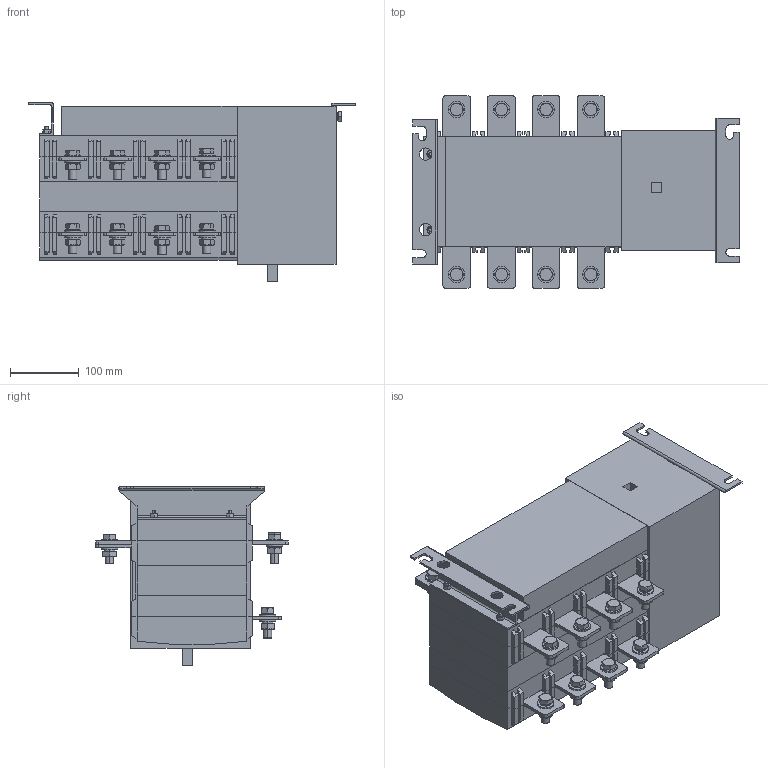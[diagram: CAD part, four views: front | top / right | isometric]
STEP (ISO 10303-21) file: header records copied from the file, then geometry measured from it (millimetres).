
FILE_DESCRIPTION((''),'2;1');
FILE_NAME('NH40-630-4SZ_ASM','2021-03-25T',('wangpeng'),(''),'PRO/ENGINEER BY PARAMETRIC TECHNOLOGY CORPORATION, 2009460','PRO/ENGINEER BY PARAMETRIC TECHNOLOGY CORPORATION, 2009460','');
FILE_SCHEMA(('AUTOMOTIVE_DESIGN { 1 0 10303 214 1 1 1 1 }'));
Length unit declared in the file: millimetre
Products named in the file (21): ZJBNH40-630-4SZ; SBNH40-630-4SZ; XBNH40-630-4SZ; SGNH40-630-4SZ; AZBNH4-630-4SZ; CTNH40-630-4SZ; DBNH40-630-4SZ; GNH40-630-4SZ; FZBNH40-630-4SZ; LJBNH40-630-4SZ; YAZBNH40-630-4SZ; LSM6; LMM6; PDQ8; TDQ8; 0LS8; PDQ12; TDQ12; LSM12; LMM12; NH40-630-4SZ_ASM
Assembly tree (93 placements, depth 2):
  NH40-630-4SZ_ASM
    ZJBNH40-630-4SZ
    SBNH40-630-4SZ
    XBNH40-630-4SZ  x2
    SGNH40-630-4SZ
    AZBNH4-630-4SZ
    CTNH40-630-4SZ  x4
    DBNH40-630-4SZ
    GNH40-630-4SZ
    FZBNH40-630-4SZ
    LJBNH40-630-4SZ  x4
    YAZBNH40-630-4SZ
    LSM6  x2
    LMM6  x2
    PDQ8
    TDQ8
    0LS8
    PDQ12  x25
    TDQ12  x18
    LSM12  x12
    LMM12  x13
Bounding box: 475 x 280 x 260 mm (x, y, z)
Volume: 16307289.5 mm3; surface area: 1363706.4 mm2
Topology: 93 solids, 93 shells, 1770 faces, 4440 edges, 2861 vertices
Faces by surface type: plane 1120, cylinder 362, cone 268, bspline 18, torus 2
Entity records: 26389 total; most frequent: CARTESIAN_POINT 6316, ORIENTED_EDGE 3882, DIRECTION 3647, EDGE_CURVE 1941, VECTOR 1613, LINE 1613, VERTEX_POINT 1285, AXIS2_PLACEMENT_3D 1017
